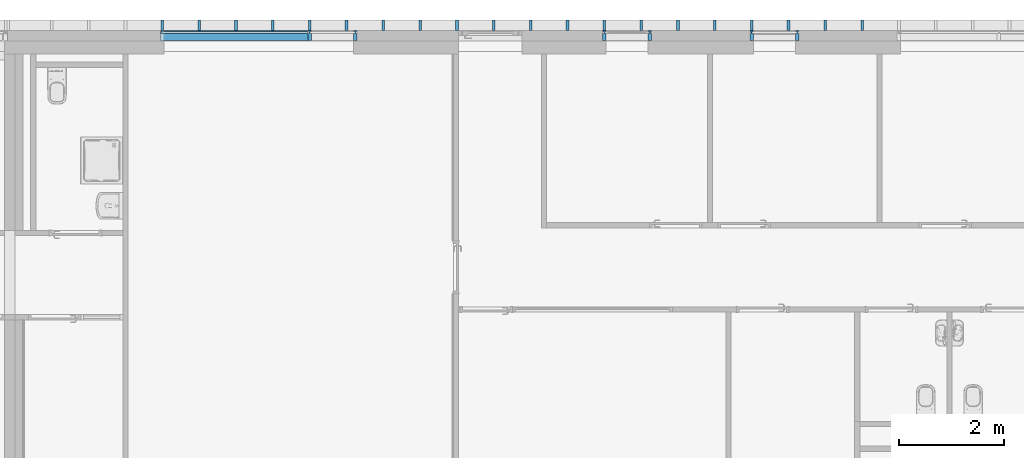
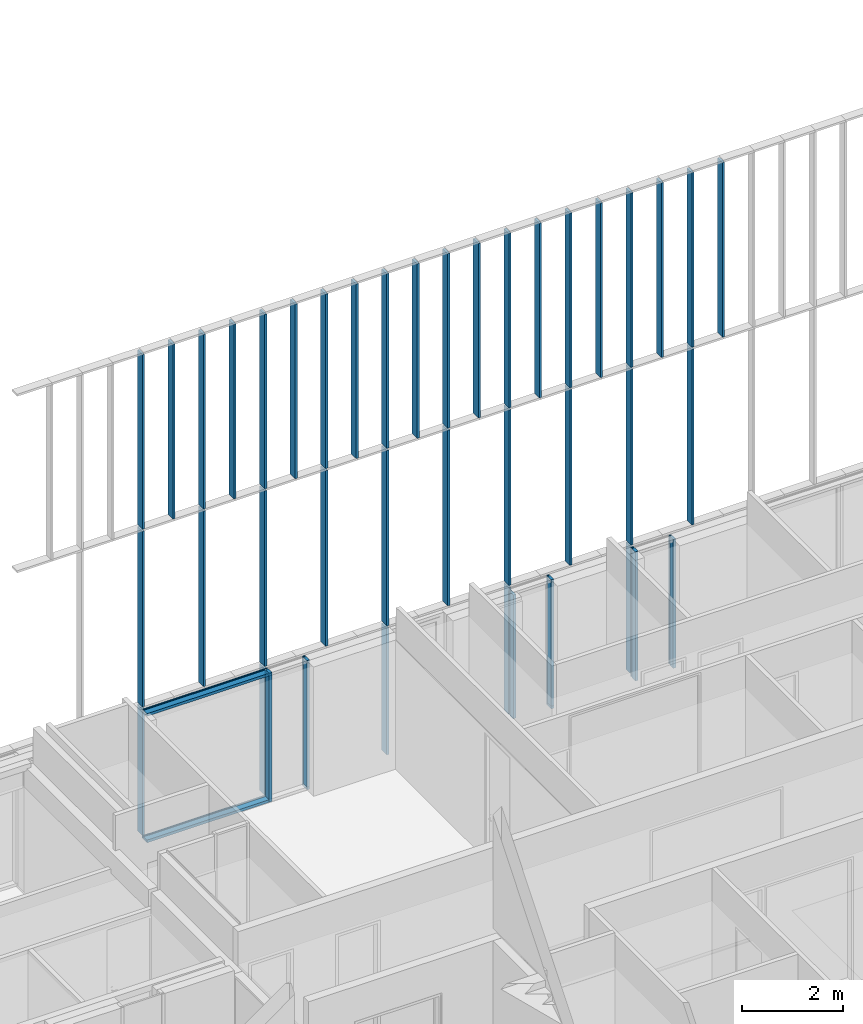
# One storey, part 17 of 240: 46 members, 5 elements without a shape of their own.
"""IFC2X3 building model written with IfcOpenShell, lengths in centimetres."""

from ifc_helpers import new_model, entity, si_unit, converted_unit, derived_unit, direction, frame, origin, origin_2d_with_axis, place, context, subcontext, project, spatial, polyline, rectangle, outline, extrude, source, transform, mapped, material, type_object, type_shapes, element, aggregate, save


model = new_model("IFC2X3")

# Units and contexts
model_context = context("Model", 3, precision=0.001, world=origin(), true_north=direction((6.12303176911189e-17, 1.0)))
body_context = subcontext(model_context, "Body", "Model", "MODEL_VIEW")
ifc_project = project(units=[si_unit("LENGTHUNIT", "METRE", prefix="CENTI"), si_unit("AREAUNIT", "SQUARE_METRE"), si_unit("VOLUMEUNIT", "CUBIC_METRE"), converted_unit("PLANEANGLEUNIT", "DEGREE", entity("IfcRatioMeasure", 0.0174532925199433), si_unit("PLANEANGLEUNIT", "RADIAN"), dimensions=[0, 0, 0, 0, 0, 0, 0]), si_unit("MASSUNIT", "GRAM", prefix="KILO"), derived_unit("MASSDENSITYUNIT", [(si_unit("MASSUNIT", "GRAM", prefix="KILO"), 1), (si_unit("LENGTHUNIT", "METRE"), -3)]), si_unit("TIMEUNIT", "SECOND"), si_unit("FREQUENCYUNIT", "HERTZ"), si_unit("THERMODYNAMICTEMPERATUREUNIT", "DEGREE_CELSIUS"), derived_unit("THERMALTRANSMITTANCEUNIT", [(si_unit("MASSUNIT", "GRAM", prefix="KILO"), 1), (si_unit("THERMODYNAMICTEMPERATUREUNIT", "KELVIN"), -1), (si_unit("TIMEUNIT", "SECOND"), -3)]), derived_unit("VOLUMETRICFLOWRATEUNIT", [(si_unit("LENGTHUNIT", "METRE"), 3), (si_unit("TIMEUNIT", "SECOND"), -1)]), si_unit("ELECTRICCURRENTUNIT", "AMPERE"), si_unit("ELECTRICVOLTAGEUNIT", "VOLT"), si_unit("POWERUNIT", "WATT"), si_unit("FORCEUNIT", "NEWTON", prefix="KILO"), si_unit("ILLUMINANCEUNIT", "LUX"), si_unit("LUMINOUSFLUXUNIT", "LUMEN"), si_unit("LUMINOUSINTENSITYUNIT", "CANDELA"), derived_unit("USERDEFINED", [(si_unit("MASSUNIT", "GRAM", prefix="KILO"), -1), (si_unit("LENGTHUNIT", "METRE"), -2), (si_unit("TIMEUNIT", "SECOND"), 3), (si_unit("LUMINOUSFLUXUNIT", "LUMEN"), 1)]), derived_unit("LINEARVELOCITYUNIT", [(si_unit("LENGTHUNIT", "METRE"), 1), (si_unit("TIMEUNIT", "SECOND"), -1)]), si_unit("PRESSUREUNIT", "PASCAL"), derived_unit("USERDEFINED", [(si_unit("LENGTHUNIT", "METRE"), -2), (si_unit("MASSUNIT", "GRAM", prefix="KILO"), 1), (si_unit("TIMEUNIT", "SECOND"), -2)])], contexts=[model_context])

# Site, building, storey
site_placement = place(None, frame((-2781.94577612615, 7442.24238424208, 0.0)))
site = spatial("IfcSite", under=ifc_project, at=site_placement, Name="Default", CompositionType="ELEMENT")
building_placement = place(site_placement, origin())
building = spatial("IfcBuilding", under=site, at=building_placement, CompositionType="ELEMENT")
storey_placement = place(building_placement, origin())
storey = spatial("IfcBuildingStorey", under=building, at=storey_placement, Name="N00 - COO", CompositionType="ELEMENT", Elevation=0.0)

# Curtain wall, member
curtain_wall_type_1 = type_object("IfcCurtainWallType", Name="Mur-rideau:07 - mur rideau trame 90 cm", PredefinedType="NOTDEFINED")
curtain_wall_1_placement = place(building_placement, origin())
curtain_wall_1 = element("IfcCurtainWall", 1, at=curtain_wall_1_placement, inside=storey, type_object=curtain_wall_type_1, Name="Mur-rideau:07 - mur rideau trame 90 cm", ObjectType="Mur-rideau:07 - mur rideau trame 90 cm")
ifc_material = material(Name="Aluminium")
member_type_1 = type_object("IfcMemberType", Name="150 x 25mm Détails", PredefinedType="MEMBER")
shared_shape_1 = source(origin(), body_context, "Body", "SweptSolid", [
    extrude(outline(polyline([(-13.3333333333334, -3.24999999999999), (0.166666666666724, -3.24999999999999), (0.166666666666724, -0.868749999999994), (3.66666666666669, -0.868749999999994), (3.66666666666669, -3.25), (5.6666666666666, -3.25), (5.6666666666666, 3.24999999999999), (3.66666666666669, 3.24999999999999), (3.66666666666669, 0.86874999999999), (0.166666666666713, 0.86874999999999), (0.166666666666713, 3.25000000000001), (-13.3333333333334, 3.25000000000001), (-13.3333333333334, -3.24999999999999)])), frame((-3.24999999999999, 1.96666666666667, -312.5), z_axis=(0.0, 0.0, 1.0), x_axis=(0.0, -1.0, 0.0)), (0.0, 0.0, 1.0), 312.5),
])
type_shapes(member_type_1, [shared_shape_1])
member_1_placement = place(building_placement, frame((-6925.99987760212, 26.2000000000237, 312.5), z_axis=(0.0, 0.0, 1.0), x_axis=(-1.0, 0.0, 0.0)))
member_1 = element("IfcMember", 2, at=member_1_placement, type_object=member_type_1, material=ifc_material, Name="Meneau rectangulaire:150 x 25mm Détails", ObjectType="Meneau rectangulaire:150 x 25mm Détails", context=body_context, shape_type="MappedRepresentation", body=[
    mapped(shared_shape_1, transform((0.0, 0.0, 0.0), scale=1.0)),
])

# Curtain wall, members
curtain_wall_type_2 = type_object("IfcCurtainWallType", Name="Mur-rideau:07 - mur rideau trame 280 cm", PredefinedType="NOTDEFINED")
curtain_wall_2_placement = place(building_placement, origin())
curtain_wall_2 = element("IfcCurtainWall", 3, at=curtain_wall_2_placement, inside=storey, type_object=curtain_wall_type_2, Name="Mur-rideau:07 - mur rideau trame 280 cm", ObjectType="Mur-rideau:07 - mur rideau trame 280 cm")
member_type_2 = type_object("IfcMemberType", Name="150 x 25mm Détails", PredefinedType="MEMBER")
shared_shape_2 = source(origin(), body_context, "Body", "SweptSolid", [
    extrude(outline(polyline([(-13.3333333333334, -3.25000000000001), (0.166666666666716, -3.25000000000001), (0.166666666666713, -0.86874999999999), (3.66666666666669, -0.86874999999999), (3.66666666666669, -3.24999999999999), (5.66666666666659, -3.24999999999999), (5.66666666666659, 3.25), (3.66666666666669, 3.25), (3.66666666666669, 0.868749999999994), (0.166666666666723, 0.868749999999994), (0.166666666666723, 3.25000000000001), (-13.3333333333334, 3.24999999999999), (-13.3333333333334, -3.25000000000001)])), frame((-3.24999999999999, 1.96666666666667, -280.0), z_axis=(0.0, 0.0, 1.0), x_axis=(0.0, -1.0, 0.0)), (0.0, 0.0, 1.0), 280.00000003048),
])
type_shapes(member_type_2, [shared_shape_2])
member_2_placement = place(building_placement, frame((-7852.74987757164, 26.2000000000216, 313.0), z_axis=(1.0, 0.0, 0.0), x_axis=(0.0, 0.0, 1.0)))
member_2 = element("IfcMember", 4, at=member_2_placement, type_object=member_type_2, material=ifc_material, Name="Meneau rectangulaire:150 x 25mm Détails", ObjectType="Meneau rectangulaire:150 x 25mm Détails", context=body_context, shape_type="MappedRepresentation", body=[
    mapped(shared_shape_2, transform((0.0, 0.0, 0.0), scale=1.0)),
])
member_type_3 = type_object("IfcMemberType", Name="150 x 25mm Détails", PredefinedType="MEMBER")
shared_shape_3 = source(origin(), body_context, "Body", "SweptSolid", [
    extrude(outline(polyline([(-13.3333333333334, -3.24999999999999), (0.166666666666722, -3.24999999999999), (0.166666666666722, -0.868749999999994), (3.66666666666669, -0.868749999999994), (3.66666666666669, -3.25), (5.66666666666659, -3.25), (5.66666666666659, 3.24999999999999), (3.66666666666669, 3.24999999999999), (3.66666666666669, 0.86874999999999), (0.166666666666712, 0.86874999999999), (0.166666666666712, 3.25000000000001), (-13.3333333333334, 3.25000000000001), (-13.3333333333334, -3.24999999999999)])), frame((-3.24999999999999, 1.96666666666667, -280.0), z_axis=(0.0, 0.0, 1.0), x_axis=(0.0, -1.0, 0.0)), (0.0, 0.0, 1.0), 280.00000003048),
])
type_shapes(member_type_3, [shared_shape_3])
member_3_placement = place(building_placement, frame((-8132.74987760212, 26.2000000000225, 0.0), z_axis=(-1.0, 0.0, 0.0), x_axis=(0.0, 0.0, -1.0)))
member_3 = element("IfcMember", 5, at=member_3_placement, type_object=member_type_3, material=ifc_material, Name="Meneau rectangulaire:150 x 25mm Détails", ObjectType="Meneau rectangulaire:150 x 25mm Détails", context=body_context, shape_type="MappedRepresentation", body=[
    mapped(shared_shape_3, transform((0.0, 0.0, 0.0), scale=1.0)),
])

# Member
member_type_4 = type_object("IfcMemberType", Name="150 x 25mm Détails", PredefinedType="MEMBER")
shared_shape_4 = source(origin(), body_context, "Body", "SweptSolid", [
    extrude(outline(polyline([(-13.3333333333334, -3.24999999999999), (0.166666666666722, -3.24999999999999), (0.166666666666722, -0.868749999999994), (3.66666666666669, -0.868749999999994), (3.66666666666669, -3.25), (5.66666666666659, -3.25), (5.66666666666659, 3.24999999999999), (3.66666666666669, 3.24999999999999), (3.66666666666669, 0.86874999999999), (0.166666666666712, 0.86874999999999), (0.166666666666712, 3.25000000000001), (-13.3333333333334, 3.25000000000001), (-13.3333333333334, -3.24999999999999)])), frame((-3.24999999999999, 1.96666666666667, -313.0), z_axis=(0.0, 0.0, 1.0), x_axis=(0.0, -1.0, 0.0)), (0.0, 0.0, 1.0), 313.0),
])
type_shapes(member_type_4, [shared_shape_4])
member_4_placement = place(building_placement, frame((-7012.74987760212, 26.2000000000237, 313.0), z_axis=(0.0, 0.0, 1.0), x_axis=(-1.0, 0.0, 0.0)))
member_4 = element("IfcMember", 6, at=member_4_placement, type_object=member_type_4, material=ifc_material, Name="Meneau rectangulaire:150 x 25mm Détails", ObjectType="Meneau rectangulaire:150 x 25mm Détails", context=body_context, shape_type="MappedRepresentation", body=[
    mapped(shared_shape_4, transform((0.0, 0.0, 0.0), scale=1.0)),
])

aggregate(curtain_wall_1, [member_4, member_1])

# Curtain wall, member
curtain_wall_3_placement = place(building_placement, origin())
curtain_wall_3 = element("IfcCurtainWall", 7, at=curtain_wall_3_placement, inside=storey, type_object=curtain_wall_type_1, Name="Mur-rideau:07 - mur rideau trame 90 cm", ObjectType="Mur-rideau:07 - mur rideau trame 90 cm")
member_type_5 = type_object("IfcMemberType", Name="150 x 25mm Détails", PredefinedType="MEMBER")
shared_shape_5 = source(origin(), body_context, "Body", "SweptSolid", [
    extrude(outline(polyline([(-13.3333333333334, -3.25000000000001), (0.166666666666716, -3.25000000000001), (0.166666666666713, -0.86874999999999), (3.66666666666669, -0.86874999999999), (3.66666666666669, -3.24999999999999), (5.66666666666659, -3.24999999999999), (5.66666666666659, 3.25), (3.66666666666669, 3.25), (3.66666666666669, 0.868749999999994), (0.166666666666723, 0.868749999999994), (0.166666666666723, 3.25000000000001), (-13.3333333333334, 3.24999999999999), (-13.3333333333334, -3.25000000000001)])), frame((-3.24999999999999, 1.96666666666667, -313.0), z_axis=(0.0, 0.0, 1.0), x_axis=(0.0, -1.0, 0.0)), (0.0, 0.0, 1.0), 313.0),
])
type_shapes(member_type_5, [shared_shape_5])
member_5_placement = place(building_placement, frame((-7199.49987760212, 26.2000000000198, 0.0), z_axis=(0.0, 0.0, -1.0), x_axis=(1.0, 0.0, 0.0)))
member_5 = element("IfcMember", 8, at=member_5_placement, type_object=member_type_5, material=ifc_material, Name="Meneau rectangulaire:150 x 25mm Détails", ObjectType="Meneau rectangulaire:150 x 25mm Détails", context=body_context, shape_type="MappedRepresentation", body=[
    mapped(shared_shape_5, transform((0.0, 0.0, 0.0), scale=1.0)),
])

curtain_wall_4_placement = place(building_placement, origin())
curtain_wall_4 = element("IfcCurtainWall", 9, at=curtain_wall_4_placement, inside=storey, type_object=curtain_wall_type_1, Name="Mur-rideau:07 - mur rideau trame 90 cm", ObjectType="Mur-rideau:07 - mur rideau trame 90 cm")
member_6_placement = place(building_placement, frame((-7759.49987760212, 26.2000000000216, 0.0), z_axis=(0.0, 0.0, -1.0), x_axis=(1.0, 0.0, 0.0)))
member_6 = element("IfcMember", 10, at=member_6_placement, type_object=member_type_5, material=ifc_material, Name="Meneau rectangulaire:150 x 25mm Détails", ObjectType="Meneau rectangulaire:150 x 25mm Détails", context=body_context, shape_type="MappedRepresentation", body=[
    mapped(shared_shape_5, transform((0.0, 0.0, 0.0), scale=1.0)),
])

# Member
member_7_placement = place(building_placement, frame((-7846.24987760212, 26.2000000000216, 0.0), z_axis=(0.0, 0.0, -1.0), x_axis=(1.0, 0.0, 0.0)))
member_7 = element("IfcMember", 11, at=member_7_placement, type_object=member_type_5, material=ifc_material, Name="Meneau rectangulaire:150 x 25mm Détails", ObjectType="Meneau rectangulaire:150 x 25mm Détails", context=body_context, shape_type="MappedRepresentation", body=[
    mapped(shared_shape_5, transform((0.0, 0.0, 0.0), scale=1.0)),
])

aggregate(curtain_wall_2, [member_3, member_7, member_2])

member_type_6 = type_object("IfcMemberType", Name="150 x 25mm Détails", PredefinedType="MEMBER")
shared_shape_6 = source(origin(), body_context, "Body", "SweptSolid", [
    extrude(outline(polyline([(-13.3333333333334, -3.24999999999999), (0.166666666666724, -3.24999999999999), (0.166666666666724, -0.868749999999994), (3.66666666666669, -0.868749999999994), (3.66666666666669, -3.25), (5.6666666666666, -3.25), (5.6666666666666, 3.24999999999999), (3.66666666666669, 3.24999999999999), (3.66666666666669, 0.86874999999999), (0.166666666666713, 0.86874999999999), (0.166666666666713, 3.25000000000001), (-13.3333333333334, 3.25000000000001), (-13.3333333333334, -3.24999999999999)])), frame((-3.24999999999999, 1.96666666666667, -300.0), z_axis=(0.0, 0.0, 1.0), x_axis=(0.0, -1.0, 0.0)), (0.0, 0.0, 1.0), 300.000000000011),
])
type_shapes(member_type_6, [shared_shape_6])
member_8_placement = place(building_placement, frame((-7292.74987760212, 26.2000000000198, 306.5), z_axis=(0.0, 0.0, 1.0), x_axis=(-1.0, 0.0, 0.0)))
member_8 = element("IfcMember", 12, at=member_8_placement, type_object=member_type_6, material=ifc_material, Name="Meneau rectangulaire:150 x 25mm Détails", ObjectType="Meneau rectangulaire:150 x 25mm Détails", context=body_context, shape_type="MappedRepresentation", body=[
    mapped(shared_shape_6, transform((0.0, 0.0, 0.0), scale=1.0)),
])

member_9_placement = place(building_placement, frame((-7852.74987760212, 26.2000000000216, 306.5), z_axis=(0.0, 0.0, 1.0), x_axis=(-1.0, 0.0, 0.0)))
member_9 = element("IfcMember", 13, at=member_9_placement, type_object=member_type_6, material=ifc_material, Name="Meneau rectangulaire:150 x 25mm Détails", ObjectType="Meneau rectangulaire:150 x 25mm Détails", context=body_context, shape_type="MappedRepresentation", body=[
    mapped(shared_shape_6, transform((0.0, 0.0, 0.0), scale=1.0)),
])

member_type_7 = type_object("IfcMemberType", Name="150 x 25mm Détails", PredefinedType="MEMBER")
shared_shape_7 = source(origin(), body_context, "Body", "SweptSolid", [
    extrude(outline(polyline([(-13.3333333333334, -3.25000000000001), (0.166666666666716, -3.25000000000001), (0.166666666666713, -0.86874999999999), (3.66666666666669, -0.86874999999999), (3.66666666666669, -3.24999999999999), (5.66666666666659, -3.24999999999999), (5.66666666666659, 3.25), (3.66666666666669, 3.25), (3.66666666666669, 0.868749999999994), (0.166666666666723, 0.868749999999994), (0.166666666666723, 3.25000000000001), (-13.3333333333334, 3.24999999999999), (-13.3333333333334, -3.25000000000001)])), frame((0.0, 1.96666666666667, -300.0), z_axis=(0.0, 0.0, 1.0), x_axis=(0.0, -1.0, 0.0)), (0.0, 0.0, 1.0), 300.000000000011),
])
type_shapes(member_type_7, [shared_shape_7])
member_10_placement = place(building_placement, frame((-7202.74987757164, 26.2000000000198, 6.49999999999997), z_axis=(0.0, 0.0, -1.0), x_axis=(1.0, 0.0, 0.0)))
member_10 = element("IfcMember", 14, at=member_10_placement, type_object=member_type_7, material=ifc_material, Name="Meneau rectangulaire:150 x 25mm Détails", ObjectType="Meneau rectangulaire:150 x 25mm Détails", context=body_context, shape_type="MappedRepresentation", body=[
    mapped(shared_shape_7, transform((0.0, 0.0, 0.0), scale=1.0)),
])

aggregate(curtain_wall_3, [member_5, member_8, member_10])

member_11_placement = place(building_placement, frame((-7762.74987757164, 26.2000000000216, 6.49999999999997), z_axis=(0.0, 0.0, -1.0), x_axis=(1.0, 0.0, 0.0)))
member_11 = element("IfcMember", 15, at=member_11_placement, type_object=member_type_7, material=ifc_material, Name="Meneau rectangulaire:150 x 25mm Détails", ObjectType="Meneau rectangulaire:150 x 25mm Détails", context=body_context, shape_type="MappedRepresentation", body=[
    mapped(shared_shape_7, transform((0.0, 0.0, 0.0), scale=1.0)),
])

aggregate(curtain_wall_4, [member_6, member_9, member_11])

# Curtain wall, members
curtain_wall_type_3 = type_object("IfcCurtainWallType", Name="Mur-rideau:Epines - 200x50mm", PredefinedType="NOTDEFINED")
curtain_wall_5_placement = place(building_placement, origin())
curtain_wall_5 = element("IfcCurtainWall", 16, at=curtain_wall_5_placement, inside=storey, type_object=curtain_wall_type_3, Name="Mur-rideau:Epines - 200x50mm", ObjectType="Mur-rideau:Epines - 200x50mm")
member_type_8 = type_object("IfcMemberType", Name="200x50 mm", PredefinedType="MEMBER")
shared_shape_8 = source(origin(), body_context, "Body", "SweptSolid", [
    extrude(rectangle(XDim=20.0, YDim=5.0, at=origin_2d_with_axis()), frame((0.0, 0.0, -423.0), z_axis=(0.0, 0.0, 1.0), x_axis=(0.0, -1.0, 0.0)), (0.0, 0.0, 1.0), 423.000000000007),
])
type_shapes(member_type_8, [shared_shape_8])
member_12_placement = place(building_placement, frame((-7009.49987760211, 40.0, 748.0), z_axis=(0.0, 0.0, -1.0), x_axis=(1.0, 0.0, 0.0)))
member_12 = element("IfcMember", 17, at=member_12_placement, type_object=member_type_8, material=ifc_material, Name="Meneau rectangulaire:200x50 mm", ObjectType="Meneau rectangulaire:200x50 mm", context=body_context, shape_type="MappedRepresentation", body=[
    mapped(shared_shape_8, transform((0.0, 0.0, 0.0), scale=1.0)),
])
member_13_placement = place(building_placement, frame((-7289.49987760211, 40.0, 748.0), z_axis=(0.0, 0.0, -1.0), x_axis=(1.0, 0.0, 0.0)))
member_13 = element("IfcMember", 18, at=member_13_placement, type_object=member_type_8, material=ifc_material, Name="Meneau rectangulaire:200x50 mm", ObjectType="Meneau rectangulaire:200x50 mm", context=body_context, shape_type="MappedRepresentation", body=[
    mapped(shared_shape_8, transform((0.0, 0.0, 0.0), scale=1.0)),
])
member_14_placement = place(building_placement, frame((-7569.49987760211, 40.0, 748.0), z_axis=(0.0, 0.0, -1.0), x_axis=(1.0, 0.0, 0.0)))
member_14 = element("IfcMember", 19, at=member_14_placement, type_object=member_type_8, material=ifc_material, Name="Meneau rectangulaire:200x50 mm", ObjectType="Meneau rectangulaire:200x50 mm", context=body_context, shape_type="MappedRepresentation", body=[
    mapped(shared_shape_8, transform((0.0, 0.0, 0.0), scale=1.0)),
])
member_15_placement = place(building_placement, frame((-7849.49987760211, 40.0, 748.0), z_axis=(0.0, 0.0, -1.0), x_axis=(1.0, 0.0, 0.0)))
member_15 = element("IfcMember", 20, at=member_15_placement, type_object=member_type_8, material=ifc_material, Name="Meneau rectangulaire:200x50 mm", ObjectType="Meneau rectangulaire:200x50 mm", context=body_context, shape_type="MappedRepresentation", body=[
    mapped(shared_shape_8, transform((0.0, 0.0, 0.0), scale=1.0)),
])
member_16_placement = place(building_placement, frame((-8129.4998776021, 40.0, 748.0), z_axis=(0.0, 0.0, -1.0), x_axis=(1.0, 0.0, 0.0)))
member_16 = element("IfcMember", 21, at=member_16_placement, type_object=member_type_8, material=ifc_material, Name="Meneau rectangulaire:200x50 mm", ObjectType="Meneau rectangulaire:200x50 mm", context=body_context, shape_type="MappedRepresentation", body=[
    mapped(shared_shape_8, transform((0.0, 0.0, 0.0), scale=1.0)),
])
member_17_placement = place(building_placement, frame((-6869.49987760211, 40.0, 748.0), z_axis=(0.0, 0.0, -1.0), x_axis=(1.0, 0.0, 0.0)))
member_17 = element("IfcMember", 22, at=member_17_placement, type_object=member_type_8, material=ifc_material, Name="Meneau rectangulaire:200x50 mm", ObjectType="Meneau rectangulaire:200x50 mm", context=body_context, shape_type="MappedRepresentation", body=[
    mapped(shared_shape_8, transform((0.0, 0.0, 0.0), scale=1.0)),
])
member_18_placement = place(building_placement, frame((-7149.49987760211, 40.0, 748.0), z_axis=(0.0, 0.0, -1.0), x_axis=(1.0, 0.0, 0.0)))
member_18 = element("IfcMember", 23, at=member_18_placement, type_object=member_type_8, material=ifc_material, Name="Meneau rectangulaire:200x50 mm", ObjectType="Meneau rectangulaire:200x50 mm", context=body_context, shape_type="MappedRepresentation", body=[
    mapped(shared_shape_8, transform((0.0, 0.0, 0.0), scale=1.0)),
])
member_19_placement = place(building_placement, frame((-7429.49987760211, 40.0, 748.0), z_axis=(0.0, 0.0, -1.0), x_axis=(1.0, 0.0, 0.0)))
member_19 = element("IfcMember", 24, at=member_19_placement, type_object=member_type_8, material=ifc_material, Name="Meneau rectangulaire:200x50 mm", ObjectType="Meneau rectangulaire:200x50 mm", context=body_context, shape_type="MappedRepresentation", body=[
    mapped(shared_shape_8, transform((0.0, 0.0, 0.0), scale=1.0)),
])
member_20_placement = place(building_placement, frame((-7709.49987760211, 40.0, 748.0), z_axis=(0.0, 0.0, -1.0), x_axis=(1.0, 0.0, 0.0)))
member_20 = element("IfcMember", 25, at=member_20_placement, type_object=member_type_8, material=ifc_material, Name="Meneau rectangulaire:200x50 mm", ObjectType="Meneau rectangulaire:200x50 mm", context=body_context, shape_type="MappedRepresentation", body=[
    mapped(shared_shape_8, transform((0.0, 0.0, 0.0), scale=1.0)),
])
member_21_placement = place(building_placement, frame((-7989.4998776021, 40.0, 748.0), z_axis=(0.0, 0.0, -1.0), x_axis=(1.0, 0.0, 0.0)))
member_21 = element("IfcMember", 26, at=member_21_placement, type_object=member_type_8, material=ifc_material, Name="Meneau rectangulaire:200x50 mm", ObjectType="Meneau rectangulaire:200x50 mm", context=body_context, shape_type="MappedRepresentation", body=[
    mapped(shared_shape_8, transform((0.0, 0.0, 0.0), scale=1.0)),
])
member_22_placement = place(building_placement, frame((-8059.4998776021, 40.0, 748.0), z_axis=(0.0, 0.0, -1.0), x_axis=(1.0, 0.0, 0.0)))
member_22 = element("IfcMember", 27, at=member_22_placement, type_object=member_type_8, material=ifc_material, Name="Meneau rectangulaire:200x50 mm", ObjectType="Meneau rectangulaire:200x50 mm", context=body_context, shape_type="MappedRepresentation", body=[
    mapped(shared_shape_8, transform((0.0, 0.0, 0.0), scale=1.0)),
])
member_23_placement = place(building_placement, frame((-7919.49987760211, 40.0, 748.0), z_axis=(0.0, 0.0, -1.0), x_axis=(1.0, 0.0, 0.0)))
member_23 = element("IfcMember", 28, at=member_23_placement, type_object=member_type_8, material=ifc_material, Name="Meneau rectangulaire:200x50 mm", ObjectType="Meneau rectangulaire:200x50 mm", context=body_context, shape_type="MappedRepresentation", body=[
    mapped(shared_shape_8, transform((0.0, 0.0, 0.0), scale=1.0)),
])
member_24_placement = place(building_placement, frame((-7779.4998776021, 40.0, 748.0), z_axis=(0.0, 0.0, -1.0), x_axis=(1.0, 0.0, 0.0)))
member_24 = element("IfcMember", 29, at=member_24_placement, type_object=member_type_8, material=ifc_material, Name="Meneau rectangulaire:200x50 mm", ObjectType="Meneau rectangulaire:200x50 mm", context=body_context, shape_type="MappedRepresentation", body=[
    mapped(shared_shape_8, transform((0.0, 0.0, 0.0), scale=1.0)),
])
member_25_placement = place(building_placement, frame((-7639.49987760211, 40.0, 748.0), z_axis=(0.0, 0.0, -1.0), x_axis=(1.0, 0.0, 0.0)))
member_25 = element("IfcMember", 30, at=member_25_placement, type_object=member_type_8, material=ifc_material, Name="Meneau rectangulaire:200x50 mm", ObjectType="Meneau rectangulaire:200x50 mm", context=body_context, shape_type="MappedRepresentation", body=[
    mapped(shared_shape_8, transform((0.0, 0.0, 0.0), scale=1.0)),
])
member_26_placement = place(building_placement, frame((-7499.49987760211, 40.0, 748.0), z_axis=(0.0, 0.0, -1.0), x_axis=(1.0, 0.0, 0.0)))
member_26 = element("IfcMember", 31, at=member_26_placement, type_object=member_type_8, material=ifc_material, Name="Meneau rectangulaire:200x50 mm", ObjectType="Meneau rectangulaire:200x50 mm", context=body_context, shape_type="MappedRepresentation", body=[
    mapped(shared_shape_8, transform((0.0, 0.0, 0.0), scale=1.0)),
])
member_27_placement = place(building_placement, frame((-7359.49987760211, 40.0, 748.0), z_axis=(0.0, 0.0, -1.0), x_axis=(1.0, 0.0, 0.0)))
member_27 = element("IfcMember", 32, at=member_27_placement, type_object=member_type_8, material=ifc_material, Name="Meneau rectangulaire:200x50 mm", ObjectType="Meneau rectangulaire:200x50 mm", context=body_context, shape_type="MappedRepresentation", body=[
    mapped(shared_shape_8, transform((0.0, 0.0, 0.0), scale=1.0)),
])
member_28_placement = place(building_placement, frame((-7219.49987760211, 40.0, 748.0), z_axis=(0.0, 0.0, -1.0), x_axis=(1.0, 0.0, 0.0)))
member_28 = element("IfcMember", 33, at=member_28_placement, type_object=member_type_8, material=ifc_material, Name="Meneau rectangulaire:200x50 mm", ObjectType="Meneau rectangulaire:200x50 mm", context=body_context, shape_type="MappedRepresentation", body=[
    mapped(shared_shape_8, transform((0.0, 0.0, 0.0), scale=1.0)),
])
member_29_placement = place(building_placement, frame((-7079.49987760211, 40.0, 748.0), z_axis=(0.0, 0.0, -1.0), x_axis=(1.0, 0.0, 0.0)))
member_29 = element("IfcMember", 34, at=member_29_placement, type_object=member_type_8, material=ifc_material, Name="Meneau rectangulaire:200x50 mm", ObjectType="Meneau rectangulaire:200x50 mm", context=body_context, shape_type="MappedRepresentation", body=[
    mapped(shared_shape_8, transform((0.0, 0.0, 0.0), scale=1.0)),
])
member_30_placement = place(building_placement, frame((-6939.49987760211, 40.0, 748.0), z_axis=(0.0, 0.0, -1.0), x_axis=(1.0, 0.0, 0.0)))
member_30 = element("IfcMember", 35, at=member_30_placement, type_object=member_type_8, material=ifc_material, Name="Meneau rectangulaire:200x50 mm", ObjectType="Meneau rectangulaire:200x50 mm", context=body_context, shape_type="MappedRepresentation", body=[
    mapped(shared_shape_8, transform((0.0, 0.0, 0.0), scale=1.0)),
])
member_31_placement = place(building_placement, frame((-6799.49987760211, 40.0, 748.0), z_axis=(0.0, 0.0, -1.0), x_axis=(1.0, 0.0, 0.0)))
member_31 = element("IfcMember", 36, at=member_31_placement, type_object=member_type_8, material=ifc_material, Name="Meneau rectangulaire:200x50 mm", ObjectType="Meneau rectangulaire:200x50 mm", context=body_context, shape_type="MappedRepresentation", body=[
    mapped(shared_shape_8, transform((0.0, 0.0, 0.0), scale=1.0)),
])
member_type_9 = type_object("IfcMemberType", Name="200x50 mm", PredefinedType="MEMBER")
shared_shape_9 = source(origin(), body_context, "Body", "SweptSolid", [
    extrude(rectangle(XDim=20.0, YDim=5.0, at=origin_2d_with_axis()), frame((0.0, 0.0, -425.5), z_axis=(0.0, 0.0, 1.0), x_axis=(0.0, -1.0, 0.0)), (0.0, 0.0, 1.0), 425.5),
])
type_shapes(member_type_9, [shared_shape_9])
member_32_placement = place(building_placement, frame((-7009.49987760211, 40.0, 317.5), z_axis=(0.0, 0.0, -1.0), x_axis=(1.0, 0.0, 0.0)))
member_32 = element("IfcMember", 37, at=member_32_placement, type_object=member_type_9, material=ifc_material, Name="Meneau rectangulaire:200x50 mm", ObjectType="Meneau rectangulaire:200x50 mm", context=body_context, shape_type="MappedRepresentation", body=[
    mapped(shared_shape_9, transform((0.0, 0.0, 0.0), scale=1.0)),
])
member_33_placement = place(building_placement, frame((-7289.49987760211, 40.0, 317.5), z_axis=(0.0, 0.0, -1.0), x_axis=(1.0, 0.0, 0.0)))
member_33 = element("IfcMember", 38, at=member_33_placement, type_object=member_type_9, material=ifc_material, Name="Meneau rectangulaire:200x50 mm", ObjectType="Meneau rectangulaire:200x50 mm", context=body_context, shape_type="MappedRepresentation", body=[
    mapped(shared_shape_9, transform((0.0, 0.0, 0.0), scale=1.0)),
])
member_34_placement = place(building_placement, frame((-7569.49987760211, 40.0, 317.5), z_axis=(0.0, 0.0, -1.0), x_axis=(1.0, 0.0, 0.0)))
member_34 = element("IfcMember", 39, at=member_34_placement, type_object=member_type_9, material=ifc_material, Name="Meneau rectangulaire:200x50 mm", ObjectType="Meneau rectangulaire:200x50 mm", context=body_context, shape_type="MappedRepresentation", body=[
    mapped(shared_shape_9, transform((0.0, 0.0, 0.0), scale=1.0)),
])
member_35_placement = place(building_placement, frame((-7849.49987760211, 40.0, 317.5), z_axis=(0.0, 0.0, -1.0), x_axis=(1.0, 0.0, 0.0)))
member_35 = element("IfcMember", 40, at=member_35_placement, type_object=member_type_9, material=ifc_material, Name="Meneau rectangulaire:200x50 mm", ObjectType="Meneau rectangulaire:200x50 mm", context=body_context, shape_type="MappedRepresentation", body=[
    mapped(shared_shape_9, transform((0.0, 0.0, 0.0), scale=1.0)),
])
member_36_placement = place(building_placement, frame((-8129.4998776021, 40.0, 317.5), z_axis=(0.0, 0.0, -1.0), x_axis=(1.0, 0.0, 0.0)))
member_36 = element("IfcMember", 41, at=member_36_placement, type_object=member_type_9, material=ifc_material, Name="Meneau rectangulaire:200x50 mm", ObjectType="Meneau rectangulaire:200x50 mm", context=body_context, shape_type="MappedRepresentation", body=[
    mapped(shared_shape_9, transform((0.0, 0.0, 0.0), scale=1.0)),
])
member_37_placement = place(building_placement, frame((-6869.49987760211, 40.0, 317.5), z_axis=(0.0, 0.0, -1.0), x_axis=(1.0, 0.0, 0.0)))
member_37 = element("IfcMember", 42, at=member_37_placement, type_object=member_type_9, material=ifc_material, Name="Meneau rectangulaire:200x50 mm", ObjectType="Meneau rectangulaire:200x50 mm", context=body_context, shape_type="MappedRepresentation", body=[
    mapped(shared_shape_9, transform((0.0, 0.0, 0.0), scale=1.0)),
])
member_38_placement = place(building_placement, frame((-7149.49987760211, 40.0, 317.5), z_axis=(0.0, 0.0, -1.0), x_axis=(1.0, 0.0, 0.0)))
member_38 = element("IfcMember", 43, at=member_38_placement, type_object=member_type_9, material=ifc_material, Name="Meneau rectangulaire:200x50 mm", ObjectType="Meneau rectangulaire:200x50 mm", context=body_context, shape_type="MappedRepresentation", body=[
    mapped(shared_shape_9, transform((0.0, 0.0, 0.0), scale=1.0)),
])
member_39_placement = place(building_placement, frame((-7429.49987760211, 40.0, 317.5), z_axis=(0.0, 0.0, -1.0), x_axis=(1.0, 0.0, 0.0)))
member_39 = element("IfcMember", 44, at=member_39_placement, type_object=member_type_9, material=ifc_material, Name="Meneau rectangulaire:200x50 mm", ObjectType="Meneau rectangulaire:200x50 mm", context=body_context, shape_type="MappedRepresentation", body=[
    mapped(shared_shape_9, transform((0.0, 0.0, 0.0), scale=1.0)),
])
member_40_placement = place(building_placement, frame((-7709.49987760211, 40.0, 317.5), z_axis=(0.0, 0.0, -1.0), x_axis=(1.0, 0.0, 0.0)))
member_40 = element("IfcMember", 45, at=member_40_placement, type_object=member_type_9, material=ifc_material, Name="Meneau rectangulaire:200x50 mm", ObjectType="Meneau rectangulaire:200x50 mm", context=body_context, shape_type="MappedRepresentation", body=[
    mapped(shared_shape_9, transform((0.0, 0.0, 0.0), scale=1.0)),
])
member_41_placement = place(building_placement, frame((-7989.4998776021, 40.0, 317.5), z_axis=(0.0, 0.0, -1.0), x_axis=(1.0, 0.0, 0.0)))
member_41 = element("IfcMember", 46, at=member_41_placement, type_object=member_type_9, material=ifc_material, Name="Meneau rectangulaire:200x50 mm", ObjectType="Meneau rectangulaire:200x50 mm", context=body_context, shape_type="MappedRepresentation", body=[
    mapped(shared_shape_9, transform((0.0, 0.0, 0.0), scale=1.0)),
])
member_type_10 = type_object("IfcMemberType", Name="200x50 mm", PredefinedType="MEMBER")
shared_shape_10 = source(origin(), body_context, "Body", "SweptSolid", [
    extrude(rectangle(XDim=20.0, YDim=5.0, at=origin_2d_with_axis()), frame((0.0, 0.0, -307.5), z_axis=(0.0, 0.0, 1.0), x_axis=(0.0, -1.0, 0.0)), (0.0, 0.0, 1.0), 307.5),
])
type_shapes(member_type_10, [shared_shape_10])
member_42_placement = place(building_placement, frame((-7009.49987760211, 40.0, 5.0), z_axis=(0.0, 0.0, -1.0), x_axis=(1.0, 0.0, 0.0)))
member_42 = element("IfcMember", 47, at=member_42_placement, type_object=member_type_10, material=ifc_material, Name="Meneau rectangulaire:200x50 mm", ObjectType="Meneau rectangulaire:200x50 mm", context=body_context, shape_type="MappedRepresentation", body=[
    mapped(shared_shape_10, transform((0.0, 0.0, 0.0), scale=1.0)),
])
member_43_placement = place(building_placement, frame((-7289.49987760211, 40.0, 5.0), z_axis=(0.0, 0.0, -1.0), x_axis=(1.0, 0.0, 0.0)))
member_43 = element("IfcMember", 48, at=member_43_placement, type_object=member_type_10, material=ifc_material, Name="Meneau rectangulaire:200x50 mm", ObjectType="Meneau rectangulaire:200x50 mm", context=body_context, shape_type="MappedRepresentation", body=[
    mapped(shared_shape_10, transform((0.0, 0.0, 0.0), scale=1.0)),
])
member_44_placement = place(building_placement, frame((-7569.49987760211, 40.0, 5.0), z_axis=(0.0, 0.0, -1.0), x_axis=(1.0, 0.0, 0.0)))
member_44 = element("IfcMember", 49, at=member_44_placement, type_object=member_type_10, material=ifc_material, Name="Meneau rectangulaire:200x50 mm", ObjectType="Meneau rectangulaire:200x50 mm", context=body_context, shape_type="MappedRepresentation", body=[
    mapped(shared_shape_10, transform((0.0, 0.0, 0.0), scale=1.0)),
])
member_45_placement = place(building_placement, frame((-7849.49987760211, 40.0, 5.0), z_axis=(0.0, 0.0, -1.0), x_axis=(1.0, 0.0, 0.0)))
member_45 = element("IfcMember", 50, at=member_45_placement, type_object=member_type_10, material=ifc_material, Name="Meneau rectangulaire:200x50 mm", ObjectType="Meneau rectangulaire:200x50 mm", context=body_context, shape_type="MappedRepresentation", body=[
    mapped(shared_shape_10, transform((0.0, 0.0, 0.0), scale=1.0)),
])
member_46_placement = place(building_placement, frame((-8129.4998776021, 40.0, 5.0), z_axis=(0.0, 0.0, -1.0), x_axis=(1.0, 0.0, 0.0)))
member_46 = element("IfcMember", 51, at=member_46_placement, type_object=member_type_10, material=ifc_material, Name="Meneau rectangulaire:200x50 mm", ObjectType="Meneau rectangulaire:200x50 mm", context=body_context, shape_type="MappedRepresentation", body=[
    mapped(shared_shape_10, transform((0.0, 0.0, 0.0), scale=1.0)),
])
aggregate(curtain_wall_5, [member_12, member_32, member_42, member_13, member_33, member_43, member_14, member_34, member_44, member_15, member_35, member_45, member_16, member_36, member_46, member_37, member_17, member_18, member_38, member_39, member_19, member_40, member_20, member_41, member_21, member_22, member_23, member_24, member_25, member_26, member_27, member_28, member_29, member_30, member_31])

save(model, "model.ifc")
